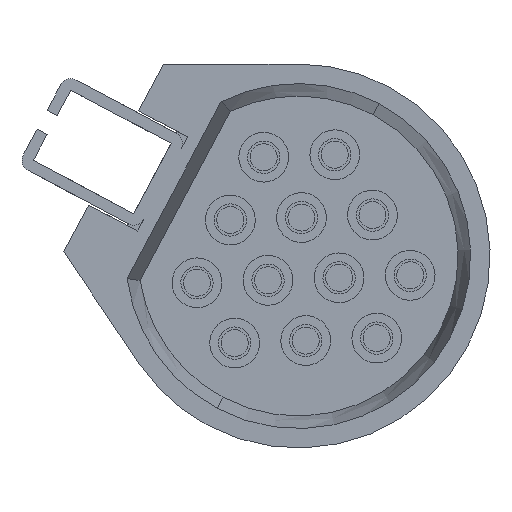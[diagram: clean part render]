
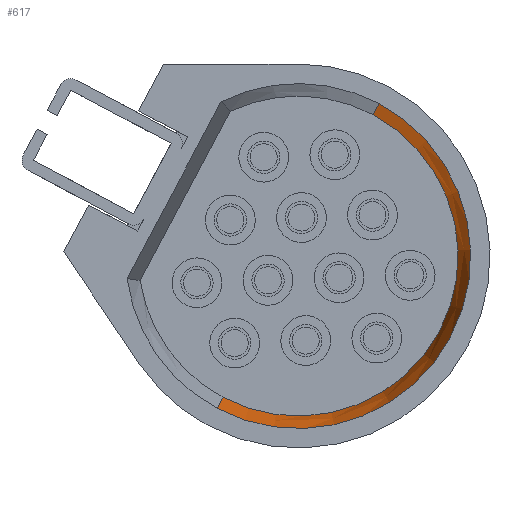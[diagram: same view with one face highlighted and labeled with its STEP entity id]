
A CAD part, left-side view. The second image highlights one B-rep face of the part: STEP entity #617.
In plain terms, the highlighted conical face has half-angle 10 degrees and reference radius 2.857 mm.
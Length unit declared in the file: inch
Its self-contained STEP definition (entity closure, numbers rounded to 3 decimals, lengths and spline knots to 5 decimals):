
#534 = VERTEX_POINT ( 'NONE', #1672 ) ;
#617 = ADVANCED_FACE ( 'NONE', ( #1870 ), #1814, .F. ) ;
#619 = ORIENTED_EDGE ( 'NONE', *, *, #755, .T. ) ;
#624 = VERTEX_POINT ( 'NONE', #1851 ) ;
#661 = VERTEX_POINT ( 'NONE', #1907 ) ;
#693 = EDGE_CURVE ( 'NONE', #741, #534, #1988, .T. ) ;
#706 = EDGE_CURVE ( 'NONE', #661, #624, #2008, .T. ) ;
#708 = EDGE_CURVE ( 'NONE', #534, #661, #1976, .T. ) ;
#728 = EDGE_LOOP ( 'NONE', ( #732, #619, #752, #748 ) ) ;
#732 = ORIENTED_EDGE ( 'NONE', *, *, #693, .F. ) ;
#741 = VERTEX_POINT ( 'NONE', #2070 ) ;
#748 = ORIENTED_EDGE ( 'NONE', *, *, #708, .F. ) ;
#752 = ORIENTED_EDGE ( 'NONE', *, *, #706, .F. ) ;
#755 = EDGE_CURVE ( 'NONE', #741, #624, #2107, .T. ) ;
#1672 = CARTESIAN_POINT ( 'NONE',  ( -0.305, -0.05282, -0.03567 ) ) ;
#1812 = DIRECTION ( 'NONE',  ( -1., 0., 0. ) ) ;
#1814 = CONICAL_SURFACE ( 'NONE', #1865, 0.1125, 0.175 ) ;
#1815 = CARTESIAN_POINT ( 'NONE',  ( -0.305, 0., -0.135 ) ) ;
#1851 = CARTESIAN_POINT ( 'NONE',  ( -0.355, 0.05695, -0.24212 ) ) ;
#1862 = DIRECTION ( 'NONE',  ( 0., -0.469, 0.883 ) ) ;
#1865 = AXIS2_PLACEMENT_3D ( 'NONE', #1815, #1812, #1862 ) ;
#1870 = FACE_OUTER_BOUND ( 'NONE', #728, .T. ) ;
#1907 = CARTESIAN_POINT ( 'NONE',  ( -0.355, -0.05695, -0.02788 ) ) ;
#1967 = DIRECTION ( 'NONE',  ( 0., -0.469, 0.883 ) ) ;
#1968 = DIRECTION ( 'NONE',  ( -1., 0., 0. ) ) ;
#1976 = LINE ( 'NONE', #2001, #2000 ) ;
#1977 = CARTESIAN_POINT ( 'NONE',  ( -0.305, 0., -0.135 ) ) ;
#1983 = AXIS2_PLACEMENT_3D ( 'NONE', #1977, #1968, #1967 ) ;
#1988 = CIRCLE ( 'NONE', #1983, 0.1125 ) ;
#1999 = DIRECTION ( 'NONE',  ( -0.985, -0.082, 0.153 ) ) ;
#2000 = VECTOR ( 'NONE', #1999, 39.37008 ) ;
#2001 = CARTESIAN_POINT ( 'NONE',  ( -0.305, -0.05282, -0.03567 ) ) ;
#2004 = DIRECTION ( 'NONE',  ( 0., -0.469, 0.883 ) ) ;
#2005 = DIRECTION ( 'NONE',  ( 1., 0., 0. ) ) ;
#2006 = AXIS2_PLACEMENT_3D ( 'NONE', #2017, #2005, #2004 ) ;
#2008 = CIRCLE ( 'NONE', #2006, 0.12132 ) ;
#2017 = CARTESIAN_POINT ( 'NONE',  ( -0.355, 0., -0.135 ) ) ;
#2070 = CARTESIAN_POINT ( 'NONE',  ( -0.305, 0.05282, -0.23433 ) ) ;
#2104 = DIRECTION ( 'NONE',  ( -0.985, 0.082, -0.153 ) ) ;
#2105 = VECTOR ( 'NONE', #2104, 39.37008 ) ;
#2106 = CARTESIAN_POINT ( 'NONE',  ( -0.305, 0.05282, -0.23433 ) ) ;
#2107 = LINE ( 'NONE', #2106, #2105 ) ;
